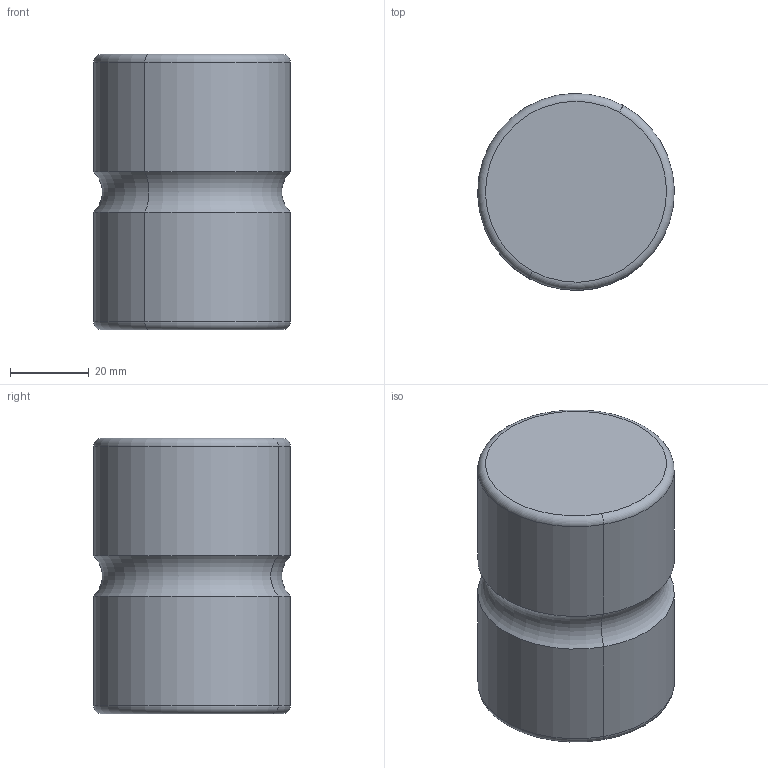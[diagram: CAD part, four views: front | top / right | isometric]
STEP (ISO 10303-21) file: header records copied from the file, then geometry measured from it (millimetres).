
FILE_DESCRIPTION(('CATIA V5 STEP Exchange'),'2;1');
FILE_NAME('C:\Users\d.catalano\Desktop\CATALOGO CAD\04 MOLLE\A519\A519-50.stp','2021-11-26T14:57:32+00:00',('none'),('none'),'CATIA Version 5 Release 19 SP 3 (IN-10)','CATIA V5 STEP AP203','none');
FILE_SCHEMA(('CONFIG_CONTROL_DESIGN'));
Length unit declared in the file: millimetre
Products named in the file (1): A519-50
Bounding box: 49.99 x 49.99 x 70 mm (x, y, z)
Volume: 134833.7 mm3; surface area: 14737.4 mm2
Topology: 1 solids, 1 shells, 12 faces, 22 edges, 12 vertices
Faces by surface type: torus 6, cylinder 4, plane 2
Entity records: 294 total; most frequent: ORIENTED_EDGE 44, CARTESIAN_POINT 41, DIRECTION 34, AXIS2_PLACEMENT_3D 25, EDGE_CURVE 22, CIRCLE 18, ADVANCED_FACE 12, EDGE_LOOP 12
